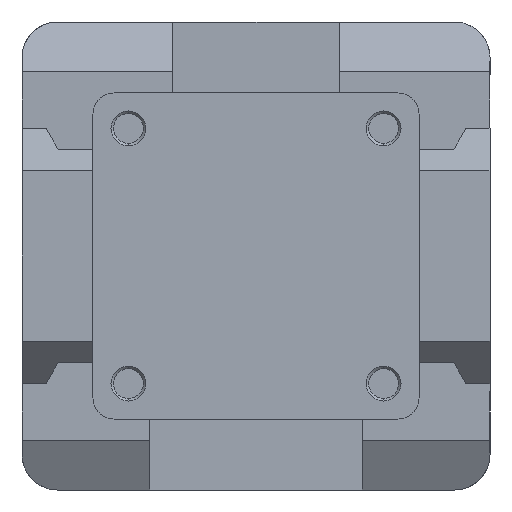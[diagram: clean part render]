
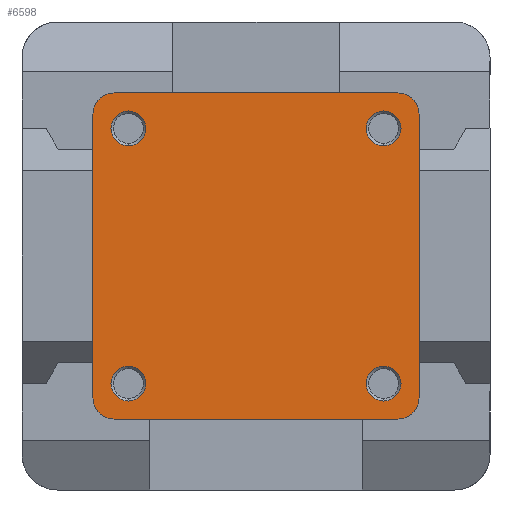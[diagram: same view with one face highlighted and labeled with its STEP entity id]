
A CAD part, front view. The second image highlights one B-rep face of the part: STEP entity #6598.
In plain terms, the highlighted planar face has unit normal (0, -1, 0).
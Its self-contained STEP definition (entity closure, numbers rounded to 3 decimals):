
#292 = ORIENTED_EDGE ( 'NONE', *, *, #9985, .T. ) ;
#388 = DIRECTION ( 'NONE',  ( 0., 1., 0. ) ) ;
#447 = CARTESIAN_POINT ( 'NONE',  ( -23., -22., 23. ) ) ;
#547 = FACE_OUTER_BOUND ( 'NONE', #12705, .T. ) ;
#605 = EDGE_CURVE ( 'NONE', #9300, #8952, #1580, .T. ) ;
#655 = CARTESIAN_POINT ( 'NONE',  ( 18., -22., 15.55 ) ) ;
#719 = VERTEX_POINT ( 'NONE', #872 ) ;
#726 = AXIS2_PLACEMENT_3D ( 'NONE', #3902, #795, #8228 ) ;
#795 = DIRECTION ( 'NONE',  ( 0., 1., 0. ) ) ;
#872 = CARTESIAN_POINT ( 'NONE',  ( -18., -22., -15.55 ) ) ;
#874 = CARTESIAN_POINT ( 'NONE',  ( 18., -22., -15.55 ) ) ;
#898 = AXIS2_PLACEMENT_3D ( 'NONE', #10078, #11213, #13125 ) ;
#946 = EDGE_CURVE ( 'NONE', #10999, #719, #8052, .T. ) ;
#1006 = AXIS2_PLACEMENT_3D ( 'NONE', #12805, #6417, #11813 ) ;
#1412 = DIRECTION ( 'NONE',  ( 1., 0., 0. ) ) ;
#1555 = CARTESIAN_POINT ( 'NONE',  ( -20., -22., 20. ) ) ;
#1580 = LINE ( 'NONE', #447, #10982 ) ;
#1918 = EDGE_CURVE ( 'NONE', #11233, #11203, #2188, .T. ) ;
#1970 = AXIS2_PLACEMENT_3D ( 'NONE', #3929, #7052, #2802 ) ;
#1980 = ORIENTED_EDGE ( 'NONE', *, *, #10639, .T. ) ;
#2188 = CIRCLE ( 'NONE', #1970, 2.45 ) ;
#2242 = CARTESIAN_POINT ( 'NONE',  ( 23., -22., 20. ) ) ;
#2366 = DIRECTION ( 'NONE',  ( 0., 0., -1. ) ) ;
#2415 = CARTESIAN_POINT ( 'NONE',  ( -18., -22., 20.45 ) ) ;
#2493 = CIRCLE ( 'NONE', #13831, 3. ) ;
#2560 = VERTEX_POINT ( 'NONE', #7854 ) ;
#2664 = FACE_BOUND ( 'NONE', #7635, .T. ) ;
#2802 = DIRECTION ( 'NONE',  ( 0., 0., 1. ) ) ;
#2884 = AXIS2_PLACEMENT_3D ( 'NONE', #1555, #13458, #6782 ) ;
#3054 = EDGE_LOOP ( 'NONE', ( #12995, #4827 ) ) ;
#3141 = CARTESIAN_POINT ( 'NONE',  ( 20., -22., 20. ) ) ;
#3348 = DIRECTION ( 'NONE',  ( 0., 0., 1. ) ) ;
#3450 = DIRECTION ( 'NONE',  ( 0., 1., 0. ) ) ;
#3490 = CARTESIAN_POINT ( 'NONE',  ( 18., -22., 18. ) ) ;
#3523 = DIRECTION ( 'NONE',  ( 0., 0., 1. ) ) ;
#3544 = AXIS2_PLACEMENT_3D ( 'NONE', #3141, #13996, #5275 ) ;
#3576 = CARTESIAN_POINT ( 'NONE',  ( -23., -22., -20. ) ) ;
#3695 = DIRECTION ( 'NONE',  ( -1., 0., 0. ) ) ;
#3900 = VERTEX_POINT ( 'NONE', #7937 ) ;
#3902 = CARTESIAN_POINT ( 'NONE',  ( -18., -22., 18. ) ) ;
#3929 = CARTESIAN_POINT ( 'NONE',  ( 18., -22., -18. ) ) ;
#4038 = ORIENTED_EDGE ( 'NONE', *, *, #9214, .T. ) ;
#4091 = ORIENTED_EDGE ( 'NONE', *, *, #5254, .T. ) ;
#4450 = CIRCLE ( 'NONE', #7405, 3. ) ;
#4617 = DIRECTION ( 'NONE',  ( 0., 1., 0. ) ) ;
#4656 = LINE ( 'NONE', #8125, #12943 ) ;
#4756 = VERTEX_POINT ( 'NONE', #2415 ) ;
#4827 = ORIENTED_EDGE ( 'NONE', *, *, #7951, .T. ) ;
#4925 = EDGE_LOOP ( 'NONE', ( #5405, #4038 ) ) ;
#5254 = EDGE_CURVE ( 'NONE', #8952, #10163, #8088, .T. ) ;
#5275 = DIRECTION ( 'NONE',  ( 0., 0., 1. ) ) ;
#5405 = ORIENTED_EDGE ( 'NONE', *, *, #946, .T. ) ;
#5593 = AXIS2_PLACEMENT_3D ( 'NONE', #3490, #388, #13427 ) ;
#5722 = DIRECTION ( 'NONE',  ( 0., 0., 1. ) ) ;
#5732 = ORIENTED_EDGE ( 'NONE', *, *, #605, .T. ) ;
#5923 = AXIS2_PLACEMENT_3D ( 'NONE', #12247, #8900, #5722 ) ;
#5939 = CIRCLE ( 'NONE', #6842, 2.45 ) ;
#6417 = DIRECTION ( 'NONE',  ( 0., 1., 0. ) ) ;
#6459 = ORIENTED_EDGE ( 'NONE', *, *, #11610, .T. ) ;
#6598 = ADVANCED_FACE ( 'NONE', ( #8260, #2664, #6981, #11323, #547 ), #12868, .F. ) ;
#6615 = CARTESIAN_POINT ( 'NONE',  ( -23., -22., -23. ) ) ;
#6728 = CARTESIAN_POINT ( 'NONE',  ( -18., -22., -18. ) ) ;
#6782 = DIRECTION ( 'NONE',  ( 0., 0., 1. ) ) ;
#6842 = AXIS2_PLACEMENT_3D ( 'NONE', #13314, #3450, #7773 ) ;
#6958 = VECTOR ( 'NONE', #2366, 1000. ) ;
#6981 = FACE_BOUND ( 'NONE', #4925, .T. ) ;
#6996 = CIRCLE ( 'NONE', #898, 2.45 ) ;
#7052 = DIRECTION ( 'NONE',  ( 0., 1., 0. ) ) ;
#7105 = CARTESIAN_POINT ( 'NONE',  ( -20., -22., -20. ) ) ;
#7176 = CIRCLE ( 'NONE', #5593, 2.45 ) ;
#7290 = CIRCLE ( 'NONE', #726, 2.45 ) ;
#7340 = CARTESIAN_POINT ( 'NONE',  ( 23., -22., -20. ) ) ;
#7405 = AXIS2_PLACEMENT_3D ( 'NONE', #7105, #9379, #12715 ) ;
#7422 = CARTESIAN_POINT ( 'NONE',  ( 18., -22., 20.45 ) ) ;
#7494 = VERTEX_POINT ( 'NONE', #7422 ) ;
#7635 = EDGE_LOOP ( 'NONE', ( #8564, #9591 ) ) ;
#7674 = LINE ( 'NONE', #6615, #6958 ) ;
#7773 = DIRECTION ( 'NONE',  ( 0., 0., 1. ) ) ;
#7808 = CARTESIAN_POINT ( 'NONE',  ( -18., -22., -18. ) ) ;
#7854 = CARTESIAN_POINT ( 'NONE',  ( -20., -22., -23. ) ) ;
#7937 = CARTESIAN_POINT ( 'NONE',  ( 20., -22., -23. ) ) ;
#7951 = EDGE_CURVE ( 'NONE', #7494, #11256, #7176, .T. ) ;
#8005 = EDGE_CURVE ( 'NONE', #13873, #2560, #4450, .T. ) ;
#8052 = CIRCLE ( 'NONE', #8724, 2.45 ) ;
#8088 = CIRCLE ( 'NONE', #2884, 3. ) ;
#8125 = CARTESIAN_POINT ( 'NONE',  ( -23., -22., -23. ) ) ;
#8228 = DIRECTION ( 'NONE',  ( 0., 0., 1. ) ) ;
#8260 = FACE_BOUND ( 'NONE', #3054, .T. ) ;
#8539 = EDGE_CURVE ( 'NONE', #10163, #13873, #7674, .T. ) ;
#8564 = ORIENTED_EDGE ( 'NONE', *, *, #12948, .T. ) ;
#8724 = AXIS2_PLACEMENT_3D ( 'NONE', #6728, #13468, #10001 ) ;
#8762 = EDGE_LOOP ( 'NONE', ( #12152, #1980 ) ) ;
#8900 = DIRECTION ( 'NONE',  ( 0., 1., 0. ) ) ;
#8907 = DIRECTION ( 'NONE',  ( 0., -1., 0. ) ) ;
#8952 = VERTEX_POINT ( 'NONE', #12729 ) ;
#9133 = DIRECTION ( 'NONE',  ( 0., 0., 1. ) ) ;
#9214 = EDGE_CURVE ( 'NONE', #719, #10999, #10873, .T. ) ;
#9300 = VERTEX_POINT ( 'NONE', #11300 ) ;
#9379 = DIRECTION ( 'NONE',  ( 0., -1., 0. ) ) ;
#9585 = EDGE_CURVE ( 'NONE', #2560, #3900, #4656, .T. ) ;
#9591 = ORIENTED_EDGE ( 'NONE', *, *, #13497, .T. ) ;
#9647 = VERTEX_POINT ( 'NONE', #2242 ) ;
#9663 = CIRCLE ( 'NONE', #3544, 3. ) ;
#9985 = EDGE_CURVE ( 'NONE', #9647, #9300, #9663, .T. ) ;
#9995 = VECTOR ( 'NONE', #9133, 1000. ) ;
#10001 = DIRECTION ( 'NONE',  ( 0., 0., 1. ) ) ;
#10056 = CARTESIAN_POINT ( 'NONE',  ( 20., -22., -20. ) ) ;
#10078 = CARTESIAN_POINT ( 'NONE',  ( 18., -22., -18. ) ) ;
#10163 = VERTEX_POINT ( 'NONE', #13139 ) ;
#10490 = CARTESIAN_POINT ( 'NONE',  ( 23., -22., -23. ) ) ;
#10513 = CARTESIAN_POINT ( 'NONE',  ( 18., -22., -20.45 ) ) ;
#10536 = CARTESIAN_POINT ( 'NONE',  ( -18., -22., -20.45 ) ) ;
#10639 = EDGE_CURVE ( 'NONE', #11203, #11233, #6996, .T. ) ;
#10873 = CIRCLE ( 'NONE', #11332, 2.45 ) ;
#10982 = VECTOR ( 'NONE', #3695, 1000. ) ;
#10995 = VERTEX_POINT ( 'NONE', #7340 ) ;
#10999 = VERTEX_POINT ( 'NONE', #10536 ) ;
#11051 = CARTESIAN_POINT ( 'NONE',  ( -18., -22., 15.55 ) ) ;
#11128 = CIRCLE ( 'NONE', #5923, 2.45 ) ;
#11203 = VERTEX_POINT ( 'NONE', #874 ) ;
#11213 = DIRECTION ( 'NONE',  ( 0., 1., 0. ) ) ;
#11233 = VERTEX_POINT ( 'NONE', #10513 ) ;
#11256 = VERTEX_POINT ( 'NONE', #655 ) ;
#11300 = CARTESIAN_POINT ( 'NONE',  ( 20., -22., 23. ) ) ;
#11306 = ORIENTED_EDGE ( 'NONE', *, *, #9585, .T. ) ;
#11323 = FACE_BOUND ( 'NONE', #8762, .T. ) ;
#11332 = AXIS2_PLACEMENT_3D ( 'NONE', #7808, #4617, #3348 ) ;
#11342 = LINE ( 'NONE', #10490, #9995 ) ;
#11610 = EDGE_CURVE ( 'NONE', #3900, #10995, #2493, .T. ) ;
#11661 = VERTEX_POINT ( 'NONE', #11051 ) ;
#11813 = DIRECTION ( 'NONE',  ( 0., 0., 1. ) ) ;
#12017 = ORIENTED_EDGE ( 'NONE', *, *, #8539, .T. ) ;
#12106 = EDGE_CURVE ( 'NONE', #10995, #9647, #11342, .T. ) ;
#12152 = ORIENTED_EDGE ( 'NONE', *, *, #1918, .T. ) ;
#12247 = CARTESIAN_POINT ( 'NONE',  ( 18., -22., 18. ) ) ;
#12354 = ORIENTED_EDGE ( 'NONE', *, *, #12106, .T. ) ;
#12422 = EDGE_CURVE ( 'NONE', #11256, #7494, #11128, .T. ) ;
#12705 = EDGE_LOOP ( 'NONE', ( #12017, #13610, #11306, #6459, #12354, #292, #5732, #4091 ) ) ;
#12715 = DIRECTION ( 'NONE',  ( 0., 0., 1. ) ) ;
#12729 = CARTESIAN_POINT ( 'NONE',  ( -20., -22., 23. ) ) ;
#12805 = CARTESIAN_POINT ( 'NONE',  ( 0., -22., 0. ) ) ;
#12868 = PLANE ( 'NONE',  #1006 ) ;
#12943 = VECTOR ( 'NONE', #1412, 1000. ) ;
#12948 = EDGE_CURVE ( 'NONE', #11661, #4756, #7290, .T. ) ;
#12995 = ORIENTED_EDGE ( 'NONE', *, *, #12422, .T. ) ;
#13125 = DIRECTION ( 'NONE',  ( 0., 0., 1. ) ) ;
#13139 = CARTESIAN_POINT ( 'NONE',  ( -23., -22., 20. ) ) ;
#13314 = CARTESIAN_POINT ( 'NONE',  ( -18., -22., 18. ) ) ;
#13427 = DIRECTION ( 'NONE',  ( 0., 0., 1. ) ) ;
#13458 = DIRECTION ( 'NONE',  ( 0., -1., 0. ) ) ;
#13468 = DIRECTION ( 'NONE',  ( 0., 1., 0. ) ) ;
#13497 = EDGE_CURVE ( 'NONE', #4756, #11661, #5939, .T. ) ;
#13610 = ORIENTED_EDGE ( 'NONE', *, *, #8005, .T. ) ;
#13831 = AXIS2_PLACEMENT_3D ( 'NONE', #10056, #8907, #3523 ) ;
#13873 = VERTEX_POINT ( 'NONE', #3576 ) ;
#13996 = DIRECTION ( 'NONE',  ( 0., -1., 0. ) ) ;
